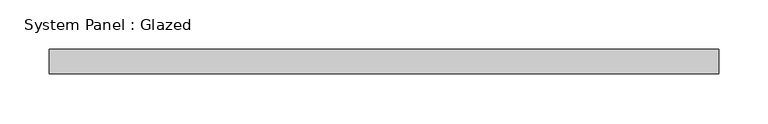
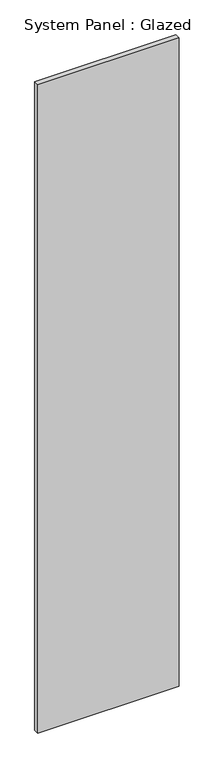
"""IFC4 building model written with IfcOpenShell, lengths in millimetres: plate geometry, System Panel : Glazed."""

from ifc_helpers import new_model, si_unit, origin, origin_with_axes, place, context, project, spatial, polyline, outline, extrude, source, transform, mapped, element, save


def system_panel_glazed_ebff84d4(model_context):
    return source(origin(), model_context, "Body", "SweptSolid", [
        extrude(outline(polyline([(340.0, 24.5), (-340.0, 24.5), (-340.0, 49.5), (340.0, 49.5), (340.0, 24.5)])), origin_with_axes(), (0.0, 0.0, 1.0), 3300.0),
    ])


if __name__ == "__main__":
    model = new_model("IFC4")
    model_context = context("Model", 3, world=origin())
    ifc_project = project(units=[si_unit("LENGTHUNIT", "METRE", prefix="MILLI")], contexts=[model_context])
    site = spatial("IfcSite", under=ifc_project)
    building = spatial("IfcBuilding", under=site)
    placement = place(None, origin())
    system_panel_glazed_shape = system_panel_glazed_ebff84d4(model_context)
    element("IfcPlate", 1, ObjectType="System Panel : Glazed", at=placement, inside=building, context=model_context, shape_type="MappedRepresentation", body=[
        mapped(system_panel_glazed_shape, transform((0.0, 0.0, 0.0), x_axis=(1.0, 0.0, 0.0), y_axis=(0.0, 1.0, 0.0), z_axis=(0.0, 0.0, 1.0))),
    ])
    save(model, "model.ifc")
